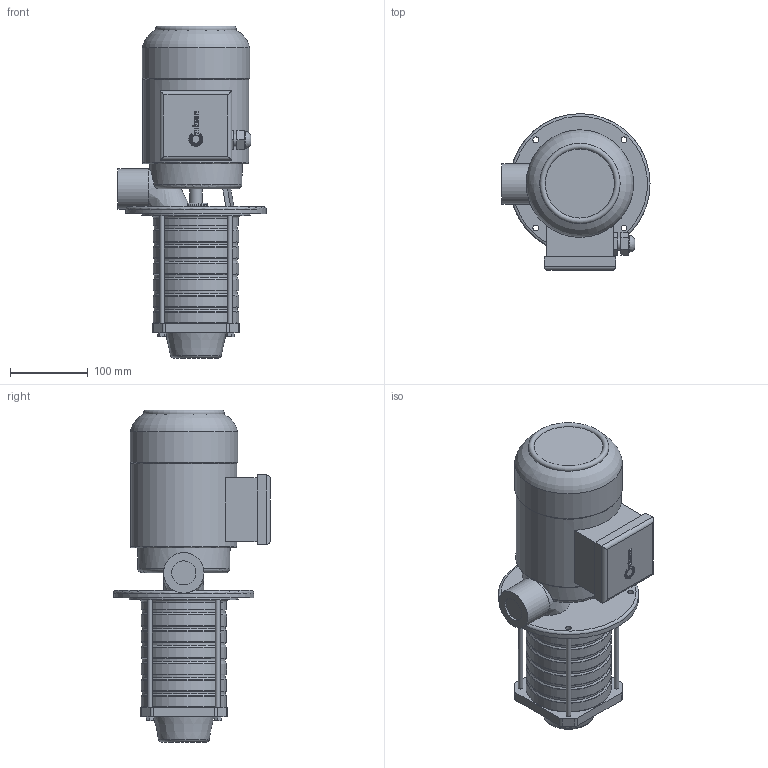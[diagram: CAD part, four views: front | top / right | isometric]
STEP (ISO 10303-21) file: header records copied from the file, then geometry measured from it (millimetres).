
FILE_DESCRIPTION(/* description */ ('Unknown'),/* implementation_level */ '2;1');
FILE_NAME(/* name */ 'hda05',/* time_stamp */ '2025-06-17T14:58:16+03:00',/* author */ ('Unknown'),/* organization */ ('Unknown'),/* preprocessor_version */ 'ST-DEVELOPER v16.7',/* originating_system */ 'DEX',/* authorisation */ $);
FILE_SCHEMA (('AUTOMOTIVE_DESIGN {1 0 10303 214 3 1 1}'));
Length unit declared in the file: millimetre
Products named in the file (1): hda05
Bounding box: 190 x 201 x 426.06 mm (x, y, z)
Volume: 5210031.3 mm3; surface area: 277043.1 mm2
Topology: 1 solids, 1 shells, 255 faces, 634 edges, 415 vertices
Faces by surface type: plane 107, bspline 66, cylinder 52, torus 22, cone 8
Full cylindrical faces by diameter (mm): 6 x4, 7.5 x4, 16.3 x1, 17 x1, 21.5 x1, 31 x1, 52 x1, 106.5 x6, 109.25 x1, 109.6 x6, 118.6 x1, 136.186 x1, 137.994 x1, 139.6 x1, 180 x1
Entity records: 9582 total; most frequent: CARTESIAN_POINT 4144, ORIENTED_EDGE 1122, DIRECTION 919, EDGE_CURVE 561, VERTEX_POINT 399, EDGE_LOOP 366, FACE_BOUND 366, AXIS2_PLACEMENT_3D 318
